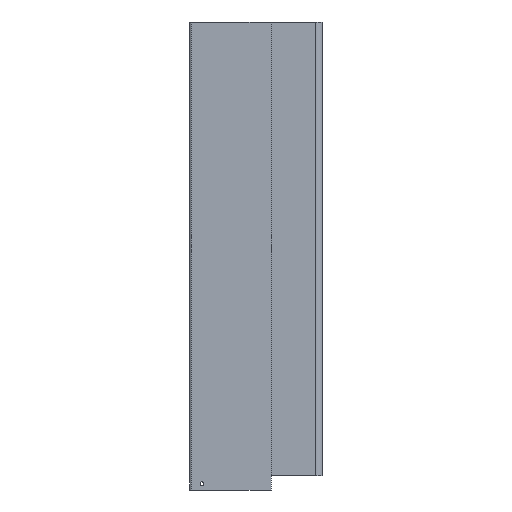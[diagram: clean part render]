
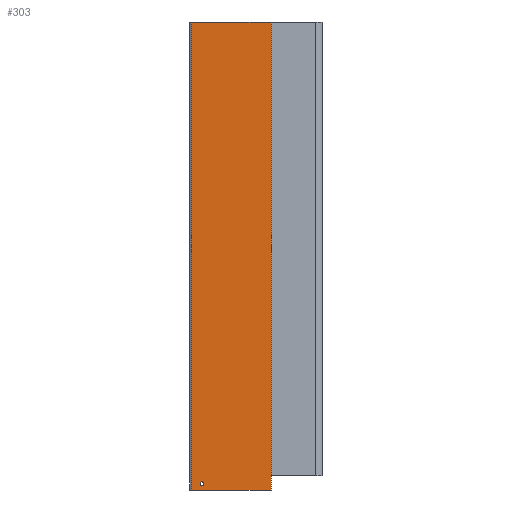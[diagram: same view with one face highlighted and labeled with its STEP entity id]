
A CAD part, left-side view. The second image highlights one B-rep face of the part: STEP entity #303.
In plain terms, the highlighted planar face has unit normal (-1, 0.011, 0).
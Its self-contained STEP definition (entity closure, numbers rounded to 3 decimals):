
#1 = CARTESIAN_POINT ( 'NONE',  ( -8.015, 14.62, 0. ) ) ;
#11 = VERTEX_POINT ( 'NONE', #569 ) ;
#39 = CARTESIAN_POINT ( 'NONE',  ( -8.159, 1., -592. ) ) ;
#44 = DIRECTION ( 'NONE',  ( 0., 0., 1. ) ) ;
#69 = VERTEX_POINT ( 'NONE', #401 ) ;
#80 = ORIENTED_EDGE ( 'NONE', *, *, #114, .F. ) ;
#88 = CARTESIAN_POINT ( 'NONE',  ( -8.015, 14.62, -597.5 ) ) ;
#100 = DIRECTION ( 'NONE',  ( 0., 0., 1. ) ) ;
#114 = EDGE_CURVE ( 'NONE', #520, #197, #475, .T. ) ;
#132 = VECTOR ( 'NONE', #685, 1000. ) ;
#141 = FACE_BOUND ( 'NONE', #427, .T. ) ;
#143 = LINE ( 'NONE', #245, #839 ) ;
#154 =( BOUNDED_CURVE ( )  B_SPLINE_CURVE ( 3, ( #713, #180, #456, #39 ),
 .UNSPECIFIED., .F., .F. ) 
 B_SPLINE_CURVE_WITH_KNOTS ( ( 4, 4 ),
 ( 4.712, 7.854 ),
 .UNSPECIFIED. ) 
 CURVE ( )  GEOMETRIC_REPRESENTATION_ITEM ( )  RATIONAL_B_SPLINE_CURVE ( ( 1., 0.333, 0.333, 1. ) ) 
 REPRESENTATION_ITEM ( '' )  );
#180 = CARTESIAN_POINT ( 'NONE',  ( -8.106, 6., -587. ) ) ;
#197 = VERTEX_POINT ( 'NONE', #476 ) ;
#206 = ORIENTED_EDGE ( 'NONE', *, *, #488, .F. ) ;
#243 = LINE ( 'NONE', #788, #591 ) ;
#245 = CARTESIAN_POINT ( 'NONE',  ( -8.015, 14.62, -749.403 ) ) ;
#253 = PLANE ( 'NONE',  #611 ) ;
#286 = ORIENTED_EDGE ( 'NONE', *, *, #861, .T. ) ;
#296 = EDGE_LOOP ( 'NONE', ( #286, #206, #740, #348 ) ) ;
#300 = EDGE_CURVE ( 'NONE', #197, #520, #154, .T. ) ;
#303 = ADVANCED_FACE ( 'NONE', ( #141, #331 ), #253, .F. ) ;
#322 = LINE ( 'NONE', #1, #132 ) ;
#326 = DIRECTION ( 'NONE',  ( -0.011, -1., 0. ) ) ;
#327 = ORIENTED_EDGE ( 'NONE', *, *, #300, .F. ) ;
#331 = FACE_OUTER_BOUND ( 'NONE', #296, .T. ) ;
#348 = ORIENTED_EDGE ( 'NONE', *, *, #608, .F. ) ;
#386 = CARTESIAN_POINT ( 'NONE',  ( -8.015, 14.62, -749.403 ) ) ;
#393 = CARTESIAN_POINT ( 'NONE',  ( -8.213, -4., -587. ) ) ;
#401 = CARTESIAN_POINT ( 'NONE',  ( -9.1, -87.495, 0. ) ) ;
#427 = EDGE_LOOP ( 'NONE', ( #327, #80 ) ) ;
#440 = VERTEX_POINT ( 'NONE', #487 ) ;
#456 = CARTESIAN_POINT ( 'NONE',  ( -8.106, 6., -592. ) ) ;
#475 =( BOUNDED_CURVE ( )  B_SPLINE_CURVE ( 3, ( #781, #790, #393, #868 ),
 .UNSPECIFIED., .F., .T. ) 
 B_SPLINE_CURVE_WITH_KNOTS ( ( 4, 4 ),
 ( 1.571, 4.712 ),
 .UNSPECIFIED. ) 
 CURVE ( )  GEOMETRIC_REPRESENTATION_ITEM ( )  RATIONAL_B_SPLINE_CURVE ( ( 1., 0.333, 0.333, 1. ) ) 
 REPRESENTATION_ITEM ( '' )  );
#476 = CARTESIAN_POINT ( 'NONE',  ( -8.159, 1., -587. ) ) ;
#487 = CARTESIAN_POINT ( 'NONE',  ( -8.015, 14.62, 0. ) ) ;
#488 = EDGE_CURVE ( 'NONE', #440, #69, #322, .T. ) ;
#520 = VERTEX_POINT ( 'NONE', #822 ) ;
#569 = CARTESIAN_POINT ( 'NONE',  ( -9.1, -87.495, -597.5 ) ) ;
#578 = VERTEX_POINT ( 'NONE', #696 ) ;
#591 = VECTOR ( 'NONE', #44, 1000. ) ;
#601 = VECTOR ( 'NONE', #627, 1000. ) ;
#608 = EDGE_CURVE ( 'NONE', #11, #578, #883, .T. ) ;
#611 = AXIS2_PLACEMENT_3D ( 'NONE', #386, #718, #326 ) ;
#627 = DIRECTION ( 'NONE',  ( 0.011, 1., 0. ) ) ;
#685 = DIRECTION ( 'NONE',  ( -0.011, -1., 0. ) ) ;
#696 = CARTESIAN_POINT ( 'NONE',  ( -8.015, 14.62, -597.5 ) ) ;
#713 = CARTESIAN_POINT ( 'NONE',  ( -8.159, 1., -587. ) ) ;
#718 = DIRECTION ( 'NONE',  ( 1., -0.011, 0. ) ) ;
#720 = EDGE_CURVE ( 'NONE', #578, #440, #143, .T. ) ;
#740 = ORIENTED_EDGE ( 'NONE', *, *, #720, .F. ) ;
#781 = CARTESIAN_POINT ( 'NONE',  ( -8.159, 1., -592. ) ) ;
#788 = CARTESIAN_POINT ( 'NONE',  ( -9.1, -87.495, -749.403 ) ) ;
#790 = CARTESIAN_POINT ( 'NONE',  ( -8.213, -4., -592. ) ) ;
#822 = CARTESIAN_POINT ( 'NONE',  ( -8.159, 1., -592. ) ) ;
#839 = VECTOR ( 'NONE', #100, 1000. ) ;
#861 = EDGE_CURVE ( 'NONE', #11, #69, #243, .T. ) ;
#868 = CARTESIAN_POINT ( 'NONE',  ( -8.159, 1., -587. ) ) ;
#883 = LINE ( 'NONE', #88, #601 ) ;
